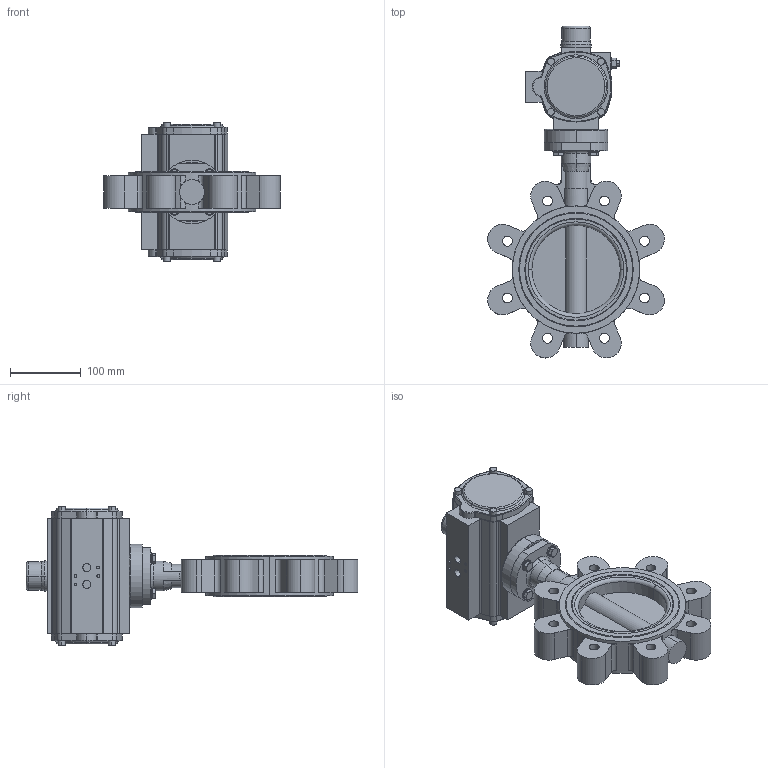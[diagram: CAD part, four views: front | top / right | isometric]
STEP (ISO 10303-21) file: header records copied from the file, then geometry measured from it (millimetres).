
FILE_DESCRIPTION (( 'STEP AP214' ), '1' );
FILE_NAME ('67697.step', '2020-10-26T07:27:14', ( '' ), ( '' ), 'SwSTEP 2.0', 'SolidWorks 2019', '' );
FILE_SCHEMA (( 'AUTOMOTIVE_DESIGN' ));
Length unit declared in the file: millimetre
Products named in the file (8): U-Scheibe DIN 125 A_M8; Achtkantreduktion 17-14 mm; 6kt-Schr DIN 933_M8x45; 67336_20x20x3 - L=18; 67407; TL20-0125_M01; DA0130-V17_01; 67697
Assembly tree (13 placements, depth 2):
  67697
    TL20-0125_M01
    67407
    Achtkantreduktion 17-14 mm
    DA0130-V17_01
    6kt-Schr DIN 933_M8x45  x4
    U-Scheibe DIN 125 A_M8  x4
    67336_20x20x3 - L=18
Bounding box: 249.85 x 469.43 x 195.8 mm (x, y, z)
Volume: 3775854.6 mm3; surface area: 356398.6 mm2
Topology: 15 solids, 15 shells, 833 faces, 2102 edges, 1353 vertices
Faces by surface type: plane 375, cylinder 348, cone 52, torus 46, bspline 12
Entity records: 26202 total; most frequent: CARTESIAN_POINT 4993, DIRECTION 4165, ORIENTED_EDGE 3796, EDGE_CURVE 1898, AXIS2_PLACEMENT_3D 1601, VERTEX_POINT 1233, VECTOR 963, LINE 963
